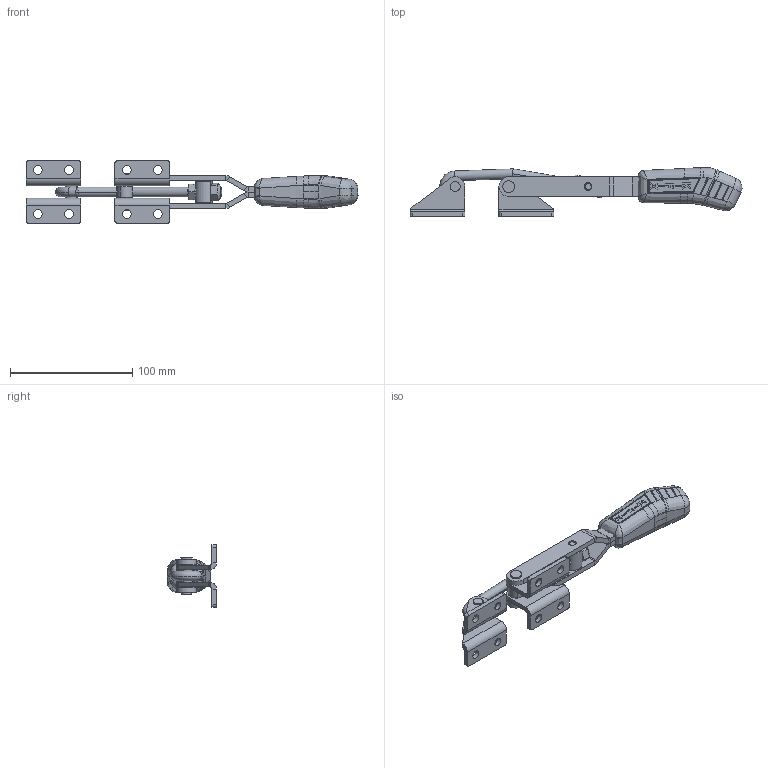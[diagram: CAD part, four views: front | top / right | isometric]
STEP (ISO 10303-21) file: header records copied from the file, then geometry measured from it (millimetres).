
FILE_DESCRIPTION (( 'STEP AP203' ), '1' );
FILE_NAME ('KF-453 D.STEP', '2014-08-21T18:20:27', ( 'Ricardo' ), ( '' ), 'SwSTEP 2.0', 'SolidWorks 2013', '' );
FILE_SCHEMA (( 'CONFIG_CONTROL_DESIGN' ));
Length unit declared in the file: millimetre
Products named in the file (12): 07.60001; 02.12049_Esquerda; 06.50029; 16.20041; 05.20031; 03.20023; KF-453 D; 01.10062; 16.20040; 11.50002; 11.50017; 02.12049_Direita
Assembly tree (14 placements, depth 2):
  KF-453 D
    02.12049_Direita  x2
    02.12049_Esquerda  x2
    16.20041
    03.20023
    01.10062  x2
    16.20040
    11.50002
    11.50017
    07.60001
    06.50029
    05.20031
Bounding box: 271.74 x 40.18 x 51 mm (x, y, z)
Volume: 105749.2 mm3; surface area: 51013.6 mm2
Topology: 14 solids, 14 shells, 577 faces, 1439 edges, 908 vertices
Faces by surface type: plane 235, cylinder 173, bspline 130, cone 32, torus 5, sphere 2
Entity records: 20015 total; most frequent: CARTESIAN_POINT 8089, ORIENTED_EDGE 2504, DIRECTION 1742, EDGE_CURVE 1252, VERTEX_POINT 798, AXIS2_PLACEMENT_3D 633, EDGE_LOOP 550, FACE_OUTER_BOUND 500
